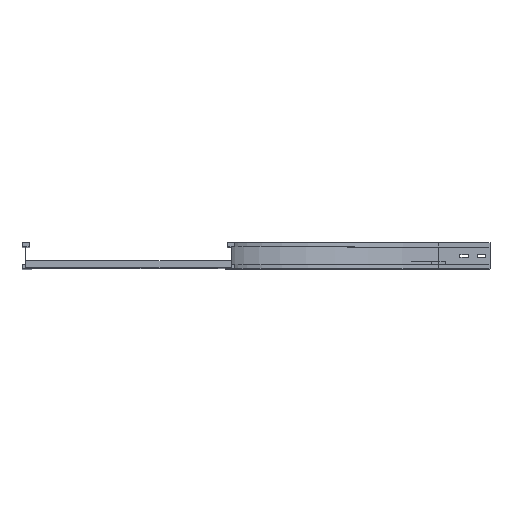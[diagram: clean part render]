
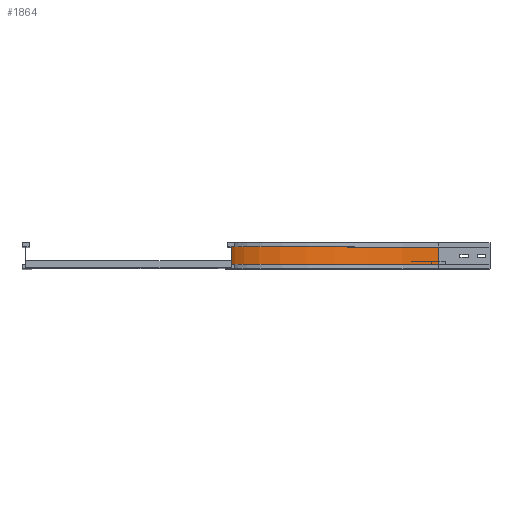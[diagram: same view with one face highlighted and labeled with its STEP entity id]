
A CAD part, top view. The second image highlights one B-rep face of the part: STEP entity #1864.
In plain terms, the highlighted cylindrical face has radius 600 mm (diameter 1200 mm), a partial arc.
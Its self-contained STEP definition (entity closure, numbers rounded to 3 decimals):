
#190 = CARTESIAN_POINT ( 'NONE',  ( -9., 12., -150. ) ) ;
#231 = CARTESIAN_POINT ( 'NONE',  ( 591., 12., -750. ) ) ;
#409 = ORIENTED_EDGE ( 'NONE', *, *, #3597, .T. ) ;
#571 = ORIENTED_EDGE ( 'NONE', *, *, #1699, .F. ) ;
#642 = DIRECTION ( 'NONE',  ( 0., 1., 0. ) ) ;
#688 = AXIS2_PLACEMENT_3D ( 'NONE', #1888, #3613, #1947 ) ;
#950 = VECTOR ( 'NONE', #3376, 1000. ) ;
#987 = AXIS2_PLACEMENT_3D ( 'NONE', #2282, #2340, #1199 ) ;
#1141 = LINE ( 'NONE', #3181, #3198 ) ;
#1199 = DIRECTION ( 'NONE',  ( -1., 0., 0. ) ) ;
#1252 = CARTESIAN_POINT ( 'NONE',  ( 591., 12., -750. ) ) ;
#1331 = AXIS2_PLACEMENT_3D ( 'NONE', #1411, #3068, #2188 ) ;
#1411 = CARTESIAN_POINT ( 'NONE',  ( 591., 0., -150. ) ) ;
#1451 = CARTESIAN_POINT ( 'NONE',  ( -9., 63., -150. ) ) ;
#1464 = EDGE_LOOP ( 'NONE', ( #571, #2771, #409, #3210 ) ) ;
#1699 = EDGE_CURVE ( 'NONE', #2043, #2812, #2095, .T. ) ;
#1864 = ADVANCED_FACE ( 'NONE', ( #3600 ), #3304, .F. ) ;
#1888 = CARTESIAN_POINT ( 'NONE',  ( 591., 63., -150. ) ) ;
#1947 = DIRECTION ( 'NONE',  ( -1., 0., 0. ) ) ;
#2043 = VERTEX_POINT ( 'NONE', #1451 ) ;
#2095 = CIRCLE ( 'NONE', #688, 600. ) ;
#2188 = DIRECTION ( 'NONE',  ( 0., 0., -1. ) ) ;
#2282 = CARTESIAN_POINT ( 'NONE',  ( 591., 12., -150. ) ) ;
#2340 = DIRECTION ( 'NONE',  ( 0., -1., 0. ) ) ;
#2442 = EDGE_CURVE ( 'NONE', #3029, #2043, #1141, .T. ) ;
#2561 = VERTEX_POINT ( 'NONE', #1252 ) ;
#2735 = EDGE_CURVE ( 'NONE', #2561, #2812, #2759, .T. ) ;
#2759 = LINE ( 'NONE', #231, #950 ) ;
#2771 = ORIENTED_EDGE ( 'NONE', *, *, #2442, .F. ) ;
#2812 = VERTEX_POINT ( 'NONE', #3410 ) ;
#2996 = CIRCLE ( 'NONE', #987, 600. ) ;
#3029 = VERTEX_POINT ( 'NONE', #190 ) ;
#3068 = DIRECTION ( 'NONE',  ( 0., -1., 0. ) ) ;
#3181 = CARTESIAN_POINT ( 'NONE',  ( -9., 12., -150. ) ) ;
#3198 = VECTOR ( 'NONE', #642, 1000. ) ;
#3210 = ORIENTED_EDGE ( 'NONE', *, *, #2735, .T. ) ;
#3304 = CYLINDRICAL_SURFACE ( 'NONE', #1331, 600. ) ;
#3376 = DIRECTION ( 'NONE',  ( 0., 1., 0. ) ) ;
#3410 = CARTESIAN_POINT ( 'NONE',  ( 591., 63., -750. ) ) ;
#3597 = EDGE_CURVE ( 'NONE', #3029, #2561, #2996, .T. ) ;
#3600 = FACE_OUTER_BOUND ( 'NONE', #1464, .T. ) ;
#3613 = DIRECTION ( 'NONE',  ( 0., -1., 0. ) ) ;
